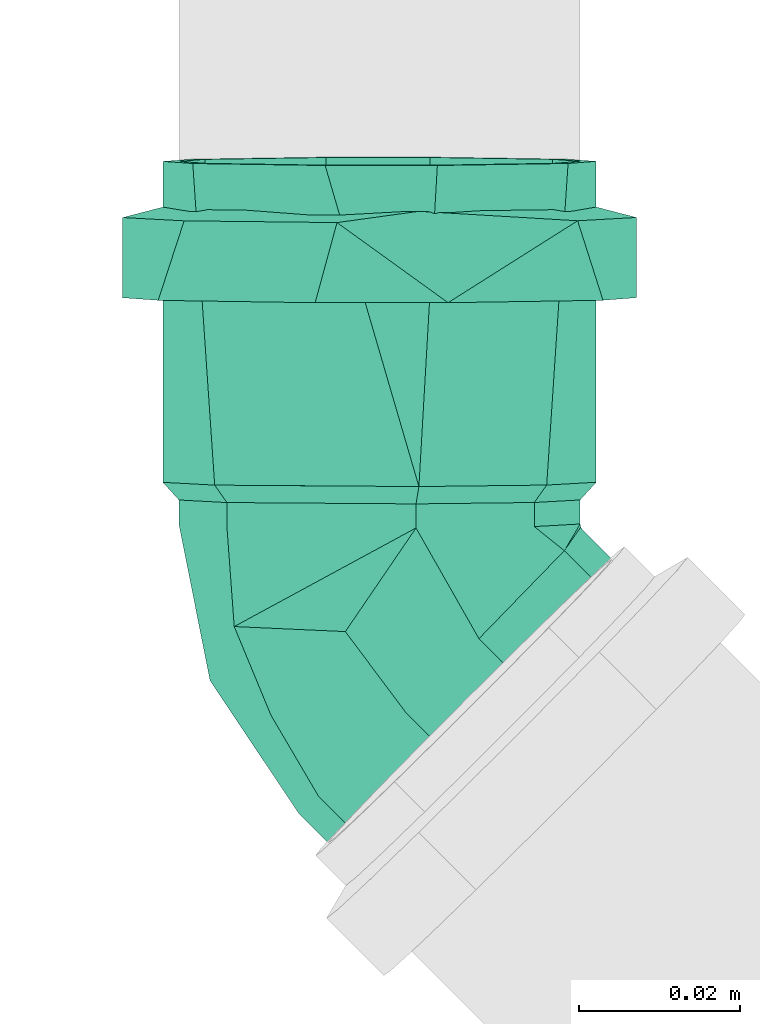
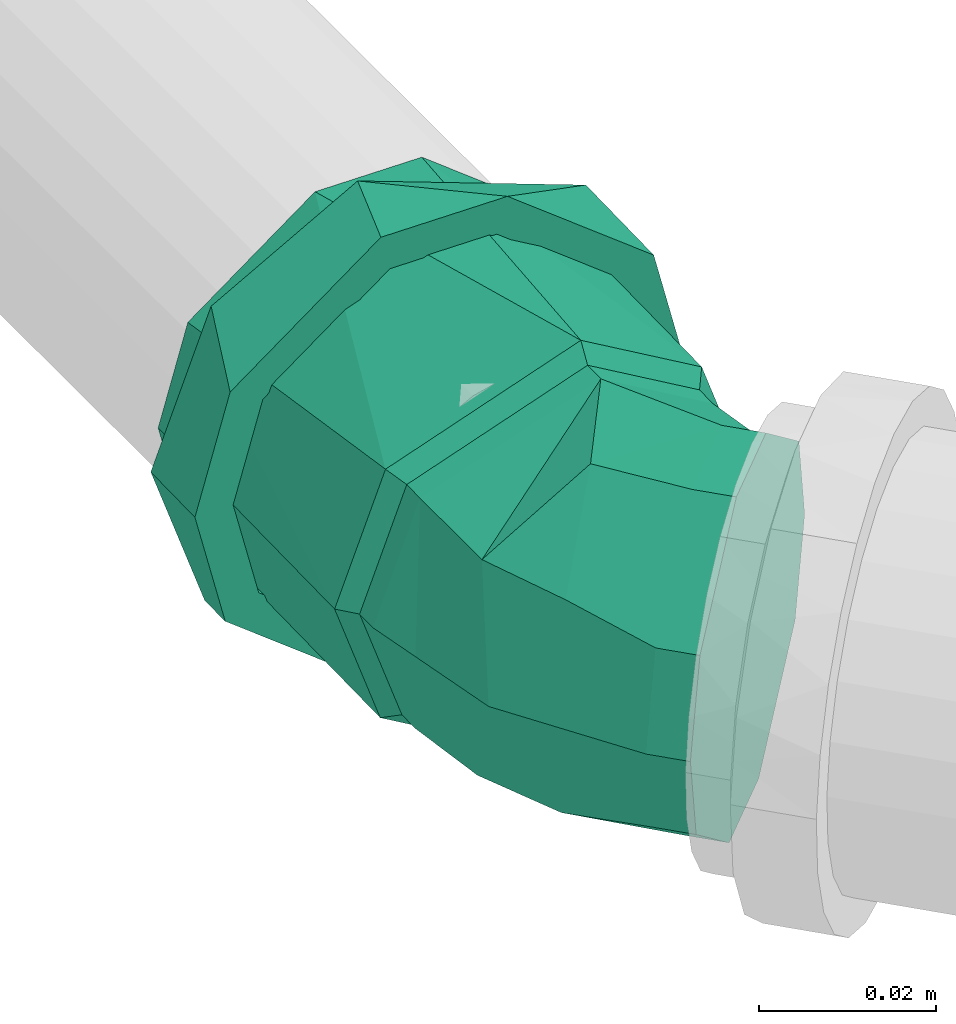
# One storey, part 131 of 589: 1 flow fitting.
"""IFC2X3 building model written with IfcOpenShell, lengths in millimetres."""

from ifc_helpers import new_model, entity, si_unit, converted_unit, derived_unit, direction, frame, origin, place, context, subcontext, project, spatial, faceted_brep, source, transform, mapped, material, type_object, type_shapes, element, save


model = new_model("IFC2X3")

# Units and contexts
model_context = context("Model", 3, precision=0.01, world=origin(), true_north=direction((6.123031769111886e-17, 1.0)))
body_context = subcontext(model_context, "Body", "Model", "MODEL_VIEW")
ifc_project = project(units=[si_unit("LENGTHUNIT", "METRE", prefix="MILLI"), si_unit("AREAUNIT", "SQUARE_METRE"), si_unit("VOLUMEUNIT", "CUBIC_METRE"), converted_unit("PLANEANGLEUNIT", "DEGREE", entity("IfcRatioMeasure", 0.017453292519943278), si_unit("PLANEANGLEUNIT", "RADIAN"), dimensions=[0, 0, 0, 0, 0, 0, 0]), si_unit("MASSUNIT", "GRAM", prefix="KILO"), derived_unit("MASSDENSITYUNIT", [(si_unit("MASSUNIT", "GRAM", prefix="KILO"), 1), (si_unit("LENGTHUNIT", "METRE"), -3)]), derived_unit("IONCONCENTRATIONUNIT", [(si_unit("MASSUNIT", "GRAM", prefix="KILO"), 1), (si_unit("LENGTHUNIT", "METRE"), -3)]), derived_unit("MOMENTOFINERTIAUNIT", [(si_unit("LENGTHUNIT", "METRE"), 4)]), si_unit("TIMEUNIT", "SECOND"), si_unit("FREQUENCYUNIT", "HERTZ"), si_unit("THERMODYNAMICTEMPERATUREUNIT", "DEGREE_CELSIUS"), derived_unit("THERMALTRANSMITTANCEUNIT", [(si_unit("MASSUNIT", "GRAM", prefix="KILO"), 1), (si_unit("THERMODYNAMICTEMPERATUREUNIT", "KELVIN"), -1), (si_unit("TIMEUNIT", "SECOND"), -3)]), derived_unit("THERMALCONDUCTANCEUNIT", [(si_unit("MASSUNIT", "GRAM", prefix="KILO"), 1), (si_unit("THERMODYNAMICTEMPERATUREUNIT", "KELVIN"), -1), (si_unit("TIMEUNIT", "SECOND"), -3), (si_unit("LENGTHUNIT", "METRE"), 1)]), derived_unit("VOLUMETRICFLOWRATEUNIT", [(si_unit("LENGTHUNIT", "METRE"), 3), (si_unit("TIMEUNIT", "SECOND"), -1)]), derived_unit("MASSFLOWRATEUNIT", [(si_unit("MASSUNIT", "GRAM", prefix="KILO"), 1), (si_unit("TIMEUNIT", "SECOND"), -1)]), derived_unit("ROTATIONALFREQUENCYUNIT", [(si_unit("TIMEUNIT", "SECOND"), -1)]), si_unit("ELECTRICCURRENTUNIT", "AMPERE"), si_unit("ELECTRICVOLTAGEUNIT", "VOLT"), si_unit("POWERUNIT", "WATT"), si_unit("FORCEUNIT", "NEWTON", prefix="KILO"), si_unit("ILLUMINANCEUNIT", "LUX"), si_unit("LUMINOUSFLUXUNIT", "LUMEN"), si_unit("LUMINOUSINTENSITYUNIT", "CANDELA"), derived_unit("USERDEFINED", [(si_unit("MASSUNIT", "GRAM", prefix="KILO"), -1), (si_unit("LENGTHUNIT", "METRE"), -2), (si_unit("TIMEUNIT", "SECOND"), 3), (si_unit("LUMINOUSFLUXUNIT", "LUMEN"), 1)]), derived_unit("USERDEFINED", [(si_unit("MASSUNIT", "GRAM", prefix="KILO"), 1), (si_unit("TIMEUNIT", "SECOND"), -3), (si_unit("LENGTHUNIT", "METRE"), 3), (si_unit("ELECTRICCURRENTUNIT", "AMPERE"), -2)]), derived_unit("SOUNDPOWERUNIT", [(si_unit("MASSUNIT", "GRAM", prefix="KILO"), 1), (si_unit("TIMEUNIT", "SECOND"), -3), (si_unit("LENGTHUNIT", "METRE"), 2)]), derived_unit("SOUNDPRESSUREUNIT", [(si_unit("MASSUNIT", "GRAM", prefix="KILO"), 1), (si_unit("LENGTHUNIT", "METRE"), -1), (si_unit("TIMEUNIT", "SECOND"), -2)]), derived_unit("LINEARVELOCITYUNIT", [(si_unit("LENGTHUNIT", "METRE"), 1), (si_unit("TIMEUNIT", "SECOND"), -1)]), si_unit("PRESSUREUNIT", "PASCAL"), derived_unit("USERDEFINED", [(si_unit("MASSUNIT", "GRAM", prefix="KILO"), 1), (si_unit("LENGTHUNIT", "METRE"), -2), (si_unit("TIMEUNIT", "SECOND"), -2)]), derived_unit("LINEARFORCEUNIT", [(si_unit("MASSUNIT", "GRAM", prefix="KILO"), 1), (si_unit("TIMEUNIT", "SECOND"), -2)]), derived_unit("PLANARFORCEUNIT", [(si_unit("MASSUNIT", "GRAM", prefix="KILO"), 1), (si_unit("LENGTHUNIT", "METRE"), -1), (si_unit("TIMEUNIT", "SECOND"), -2)]), derived_unit("SPECIFICHEATCAPACITYUNIT", [(si_unit("THERMODYNAMICTEMPERATUREUNIT", "KELVIN"), -1), (si_unit("LENGTHUNIT", "METRE"), 2), (si_unit("TIMEUNIT", "SECOND"), -2)]), derived_unit("HEATINGVALUEUNIT", [(si_unit("LENGTHUNIT", "METRE"), 2), (si_unit("TIMEUNIT", "SECOND"), -2)]), derived_unit("VAPORPERMEABILITYUNIT", [(si_unit("LENGTHUNIT", "METRE"), -1), (si_unit("TIMEUNIT", "SECOND"), 1)]), derived_unit("DYNAMICVISCOSITYUNIT", [(si_unit("MASSUNIT", "GRAM", prefix="KILO"), 1), (si_unit("TIMEUNIT", "SECOND"), -1), (si_unit("LENGTHUNIT", "METRE"), -1)]), derived_unit("THERMALEXPANSIONCOEFFICIENTUNIT", [(si_unit("THERMODYNAMICTEMPERATUREUNIT", "KELVIN"), -1)]), derived_unit("MODULUSOFELASTICITYUNIT", [(si_unit("MASSUNIT", "GRAM", prefix="KILO"), 1), (si_unit("LENGTHUNIT", "METRE"), -1), (si_unit("TIMEUNIT", "SECOND"), -2)]), derived_unit("ISOTHERMALMOISTURECAPACITYUNIT", [(si_unit("LENGTHUNIT", "METRE"), 3), (si_unit("MASSUNIT", "GRAM", prefix="KILO"), -1)]), derived_unit("MOISTUREDIFFUSIVITYUNIT", [(si_unit("TIMEUNIT", "SECOND"), -1), (si_unit("LENGTHUNIT", "METRE"), 2)])], contexts=[model_context])

# Site, building, storey
site_placement = place(None, origin())
site = spatial("IfcSite", under=ifc_project, at=site_placement, Name="Default", CompositionType="ELEMENT")
building_placement = place(site_placement, origin())
building = spatial("IfcBuilding", under=site, at=building_placement, CompositionType="ELEMENT")
storey_placement = place(building_placement, frame((0.0, 0.0, 100.0)))
storey = spatial("IfcBuildingStorey", under=building, at=storey_placement, Name="TÉRREO", CompositionType="ELEMENT", Elevation=100.0)

# Flow fitting
ifc_material = material(Name="PVC Série Normal")
pipe_fitting_type = type_object("IfcPipeFittingType", Name="PVC Esgoto_Joelho 45_90_Rodrigo MEP:a. Série Normal", PredefinedType="NOTDEFINED", material=ifc_material)
shared_shape = source(origin(), body_context, "Body", "Brep", [
    faceted_brep([(-7.692074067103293, 22.924025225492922, 12.500000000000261), (-10.060040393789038, 25.29277610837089, 0.0), (-7.692074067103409, 22.92402522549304, -12.499999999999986), (3.0401412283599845, 12.188254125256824, -24.1481456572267), (12.189260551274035, 3.0361035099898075, -24.148145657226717), (22.92147584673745, -7.699667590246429, -12.500000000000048), (25.289442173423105, -10.068418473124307, 0.0), (22.921475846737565, -7.699667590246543, 12.499999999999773), (12.18926055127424, 3.0361035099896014, 24.148145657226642), (3.0401412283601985, 12.188254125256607, 24.14814565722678), (28.967006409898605, -6.3920722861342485, 0.0), (26.599040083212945, -4.023321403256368, -12.500000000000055), (15.86682478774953, 6.712449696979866, -24.148145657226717), (6.717705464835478, 15.864600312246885, -24.148145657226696), (-4.014509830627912, 26.600371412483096, -12.499999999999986), (-6.382476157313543, 28.969122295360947, 0.0), (-4.0145098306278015, 26.600371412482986, 12.500000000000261), (6.717705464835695, 15.86460031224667, 24.14814565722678), (15.866824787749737, 6.712449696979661, 24.148145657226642), (26.599040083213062, -4.023321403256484, 12.499999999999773)], [[[0, 1, 2, 3, 4, 5, 6, 7, 8, 9]], [[10, 11, 12, 13, 14, 15, 16, 17, 18, 19]], [[6, 10, 19, 7]], [[7, 19, 18, 8]], [[18, 17, 9, 8]], [[9, 17, 16, 0]], [[0, 16, 15, 1]], [[1, 15, 14, 2]], [[2, 14, 13, 3]], [[13, 12, 4, 3]], [[4, 12, 11, 5]], [[5, 11, 10, 6]]]),
    faceted_brep([(-55.967030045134, -6.988114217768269, -26.07999730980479), (-55.967030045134, -6.47047612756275, -24.14814565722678), (-55.967030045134, 6.4704761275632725, -24.148145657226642), (-55.967030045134, -23.382685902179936, -13.499999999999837), (-55.967030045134, 6.988114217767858, -26.0799973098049), (-55.967030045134, -21.650635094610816, -12.500000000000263), (-55.967030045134, -25.0, 0.0), (-55.967030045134, -27.0, 0.0), (-55.967030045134, -21.650635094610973, 12.499999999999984), (-55.967030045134, -23.382685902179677, 13.500000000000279), (-55.967030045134, -6.470476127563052, 24.1481456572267), (-55.967030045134, -6.98811421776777, 26.079997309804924), (-55.967030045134, 6.470476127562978, 24.14814565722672), (-55.967030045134, 6.988114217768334, 26.07999730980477), (-55.967030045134, 21.650635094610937, 12.500000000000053), (-55.967030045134, 23.38268590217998, 13.499999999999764), (-55.967030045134, 27.0, 0.0), (-55.967030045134, 25.0, 0.0), (-55.967030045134, 23.382685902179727, -13.500000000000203), (-55.967030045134, 21.6506350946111, -12.499999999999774), (-15.967030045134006, 21.650635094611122, -12.499999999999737), (-15.967030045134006, 25.0, 0.0), (-15.967030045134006, 6.4704761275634, -24.148145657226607), (-15.967030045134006, -6.470476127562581, -24.148145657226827), (-15.967030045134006, -21.650635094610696, -12.500000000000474), (-15.967030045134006, -25.0, 0.0), (-15.967030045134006, -21.65063509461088, 12.500000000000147), (-15.967030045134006, -6.470476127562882, 24.14814565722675), (-15.967030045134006, 6.470476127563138, 24.148145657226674), (-15.967030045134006, 21.650635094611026, 12.499999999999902), (-15.967030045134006, 27.0, 0.0), (-15.967030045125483, 20.682232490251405, 17.356418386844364), (-15.967030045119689, 4.685536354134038, 26.59033187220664), (-15.967030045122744, -20.686585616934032, 17.35122979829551), (-15.967030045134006, -27.0, 0.0), (-15.96703004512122, -8.000524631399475, 21.970780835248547), (-15.96703004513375, -20.686585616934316, -17.35122979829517), (-15.967030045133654, -4.6922062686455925, -26.589155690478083), (-15.967030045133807, 20.682232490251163, -17.356418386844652), (-15.967030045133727, 7.995013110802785, -21.972787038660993), (-13.76703004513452, -4.338459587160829, -24.620677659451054), (-13.767030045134, 25.0, 0.0), (-13.76703004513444, 19.154245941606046, -16.065953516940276), (-13.767030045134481, 7.40789317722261, -20.34331558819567), (-13.7670300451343, -19.15021526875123, -16.07075776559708), (-13.767030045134, -25.0, 0.0), (-13.767030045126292, -19.150215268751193, 16.070757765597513), (-13.767030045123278, -7.402789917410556, 20.34517318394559), (-13.767030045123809, 19.154245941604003, 16.065953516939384), (-13.767030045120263, 4.344635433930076, 24.619588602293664), (-10.767030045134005, 25.0, 0.0), (-10.767030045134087, 19.151286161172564, 16.069481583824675), (-10.767030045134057, 4.341396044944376, 24.62016003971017), (-10.767030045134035, -7.404832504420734, 20.344954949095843), (-10.767030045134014, -19.15106105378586, 16.069749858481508), (-10.767030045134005, -25.0, 0.0), (-10.767030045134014, -19.15106105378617, -16.069749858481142), (-10.767030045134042, -4.341051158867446, -24.62022085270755), (-10.767030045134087, 19.15128616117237, -16.069481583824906), (-10.767030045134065, 7.405117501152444, -20.344851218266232), (25.289442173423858, -10.068418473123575, 0.0), (22.9214758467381, -7.699667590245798, -12.500000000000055), (12.189260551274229, 3.0361035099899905, -24.14814565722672), (3.0401412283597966, 12.188254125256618, -24.1481456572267), (-7.692074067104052, 22.92402522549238, -12.499999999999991), (-10.060040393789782, 25.292776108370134, 0.0), (-7.692074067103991, 22.924025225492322, 12.500000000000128), (3.040141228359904, 12.188254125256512, 24.14814565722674), (12.189260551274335, 3.036103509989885, 24.148145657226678), (22.92147584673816, -7.699667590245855, 12.499999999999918), (1.7065644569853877, -18.23155710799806, 15.05751816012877), (8.745922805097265, -21.119472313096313, 0.0), (12.768205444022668, -13.650820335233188, 14.852748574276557), (-3.6046282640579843, -23.575618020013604, 0.0), (2.158847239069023, -4.459785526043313, 23.973885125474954), (-10.384423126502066, 25.076088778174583, 0.0), (19.21699707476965, -14.124805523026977, 0.0), (12.764718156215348, -13.647838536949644, -14.858628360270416), (2.1213265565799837, -4.514353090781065, -23.9633231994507), (1.756380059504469, -18.2440512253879, -15.023571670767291)], [[[0, 1, 2]], [[1, 0, 3]], [[2, 4, 0]], [[3, 5, 1]], [[3, 6, 5]], [[6, 3, 7]], [[8, 6, 7]], [[8, 7, 9]], [[9, 10, 8]], [[9, 11, 10]], [[10, 11, 12]], [[13, 12, 11]], [[13, 14, 12]], [[14, 13, 15]], [[16, 14, 15]], [[17, 14, 16]], [[18, 17, 16]], [[18, 19, 17]], [[19, 18, 4]], [[4, 2, 19]], [[20, 21, 17, 19]], [[22, 20, 19, 2]], [[2, 1, 23, 22]], [[24, 23, 1, 5]], [[25, 24, 5, 6]], [[26, 25, 6, 8]], [[27, 26, 8, 10]], [[10, 12, 28, 27]], [[29, 28, 12, 14]], [[21, 29, 14, 17]], [[16, 15, 30]], [[15, 31, 30]], [[31, 15, 13]], [[31, 13, 32]], [[33, 11, 9]], [[34, 9, 7]], [[11, 33, 35, 32]], [[33, 9, 34]], [[11, 32, 13]], [[7, 3, 34]], [[3, 36, 34]], [[36, 3, 0]], [[36, 0, 37]], [[38, 4, 18]], [[30, 18, 16]], [[4, 38, 39, 37]], [[38, 18, 30]], [[4, 37, 0]], [[28, 29, 21, 20, 22, 23, 24, 25, 26, 27]], [[39, 40, 37]], [[41, 42, 30]], [[30, 42, 38]], [[38, 43, 39]], [[44, 45, 36]], [[38, 42, 43]], [[36, 37, 44]], [[34, 36, 45]], [[40, 39, 43]], [[44, 37, 40]], [[45, 46, 33]], [[33, 34, 45]], [[46, 35, 33]], [[46, 47, 35]], [[47, 32, 35]], [[48, 41, 30]], [[48, 31, 49]], [[31, 48, 30]], [[32, 47, 49]], [[49, 31, 32]], [[41, 48, 50]], [[48, 51, 50]], [[51, 48, 49]], [[51, 49, 52]], [[52, 47, 53]], [[46, 54, 53]], [[46, 45, 54]], [[49, 47, 52]], [[54, 45, 55]], [[47, 46, 53]], [[45, 44, 56]], [[45, 56, 55]], [[56, 44, 57]], [[58, 59, 43]], [[44, 40, 57]], [[40, 59, 57]], [[58, 43, 42]], [[42, 50, 58]], [[50, 42, 41]], [[59, 40, 43]], [[60, 61, 62, 63, 64, 65, 66, 67, 68, 69]], [[51, 52, 67]], [[70, 71, 72]], [[54, 55, 73]], [[70, 72, 74]], [[50, 66, 75]], [[51, 66, 50]], [[52, 70, 74]], [[76, 60, 69]], [[71, 70, 73]], [[72, 76, 69]], [[73, 70, 54]], [[76, 72, 71]], [[68, 72, 69]], [[75, 66, 65]], [[70, 52, 53, 54]], [[52, 74, 67]], [[67, 66, 51]], [[68, 74, 72]], [[68, 67, 74]], [[61, 76, 77]], [[73, 55, 56]], [[78, 58, 63]], [[78, 57, 59, 58]], [[79, 73, 56]], [[57, 78, 79]], [[62, 77, 78]], [[58, 50, 64]], [[75, 65, 64]], [[57, 79, 56]], [[61, 60, 76]], [[64, 63, 58]], [[79, 78, 77]], [[62, 61, 77]], [[76, 71, 77]], [[73, 79, 71]], [[79, 77, 71]], [[63, 62, 78]], [[64, 50, 75]]]),
    faceted_brep([(-38.96703004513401, 6.9881142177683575, -26.07999730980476), (-38.96703004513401, -6.988114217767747, -26.079997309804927), (-38.96703004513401, -8.282209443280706, -30.909626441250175), (-38.96703004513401, 8.28220944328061, -30.9096264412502), (-38.96703004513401, 23.38268590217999, -13.499999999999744), (-38.96703004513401, -27.712812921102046, -16.0), (-38.96703004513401, -23.38268590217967, -13.500000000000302), (-38.96703004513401, -27.0, 0.0), (-38.96703004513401, -32.0, 0.0), (-38.96703004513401, -23.382685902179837, 13.500000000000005), (-38.96703004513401, -27.712812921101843, 16.0), (-38.96703004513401, -6.988114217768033, 26.07999730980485), (-38.96703004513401, -8.28220944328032, 30.909626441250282), (-38.96703004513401, 6.988114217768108, 26.07999730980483), (-38.96703004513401, 8.282209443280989, 30.909626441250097), (-38.96703004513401, 23.382685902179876, 13.499999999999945), (-38.96703004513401, 27.712812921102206, 16.0), (-38.96703004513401, 32.0, 0.0), (-38.96703004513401, 27.0, 0.0), (-38.96703004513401, 27.712812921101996, -16.0), (-48.967030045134, 27.0, 0.0), (-50.26703004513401, 27.0, 0.0), (-48.967030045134, 25.191342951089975, -6.750000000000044), (-48.967030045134, 23.38268590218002, -13.499999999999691), (-48.967030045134, 19.284042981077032, -16.644999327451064), (-48.967030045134, 15.185400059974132, -19.789998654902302), (-48.967030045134, 11.086757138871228, -22.934997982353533), (-48.967030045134, 6.988114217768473, -26.07999730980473), (-48.967030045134, 0.0, -26.079997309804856), (-48.967030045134, -6.988114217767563, -26.079997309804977), (-48.967030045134, -11.086757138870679, -22.934997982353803), (-48.967030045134, -15.185400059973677, -19.789998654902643), (-48.967030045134, -19.284042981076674, -16.644999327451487), (-48.967030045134, -23.382685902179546, -13.50000000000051), (-48.967030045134, -25.191342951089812, -6.750000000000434), (-50.26703004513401, -27.0, 0.0), (-48.967030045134, -27.0, 0.0), (-48.967030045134, -25.19134295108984, 6.750000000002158), (-48.967030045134, -23.382685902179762, 13.500000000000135), (-48.967030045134, -19.284042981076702, 16.64499932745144), (-48.967030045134, -15.185400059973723, 19.7899986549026), (-48.967030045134, -11.086757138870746, 22.934997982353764), (-48.967030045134, -6.988114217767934, 26.079997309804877), (-48.967030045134, 0.0, 26.079997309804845), (-48.967030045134, 6.988114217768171, 26.079997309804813), (-48.967030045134, 11.086757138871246, 22.93499798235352), (-48.967030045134, 15.185400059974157, 19.789998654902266), (-48.967030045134, 19.284042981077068, 16.644999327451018), (-48.967030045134, 23.382685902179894, 13.499999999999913), (-48.967030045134, 25.19134295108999, 6.74999999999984), (-48.967030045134, 32.0, 0.0), (-48.9670300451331, 24.512275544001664, 20.570569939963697), (-48.96703004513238, -5.561133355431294, 31.51307341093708), (-48.9670300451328, -24.51743480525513, 20.56442050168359), (-48.967030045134, -32.0, 0.0), (-48.96703004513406, -24.51743480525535, -20.564420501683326), (-48.96703004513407, 5.553228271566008, -31.514467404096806), (-48.96703004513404, 24.512275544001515, -20.570569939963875), (-50.267030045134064, -23.84329280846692, -8.675614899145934), (-50.267030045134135, -20.686585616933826, -17.351229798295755), (-50.26703004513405, 23.841116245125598, -8.678209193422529), (-50.2670300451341, 20.6822324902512, -17.356418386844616), (-50.26703004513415, -12.689395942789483, -21.970192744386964), (-50.26703004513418, -4.692206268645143, -26.589155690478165), (-50.26703004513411, 14.338622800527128, -19.664602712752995), (-50.26703004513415, 1.6514034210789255, -24.280971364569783), (-50.267030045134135, 7.995013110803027, -21.97278703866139), (-50.26703004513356, 23.84111624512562, 8.678209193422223), (-50.26703004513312, 20.68223249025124, 17.35641838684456), (-50.267030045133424, -23.843292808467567, 8.675614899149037), (-50.26703004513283, -20.68658561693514, 17.351229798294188), (-50.26703004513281, 12.683884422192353, 21.973375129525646), (-50.267030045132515, 4.685536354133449, 26.590331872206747), (-50.26703004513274, -14.343555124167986, 19.66100531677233), (-50.26703004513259, -1.6574941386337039, 24.280556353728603), (-50.26703004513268, -8.000524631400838, 21.97078083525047)], [[[0, 1, 2]], [[2, 3, 0]], [[4, 0, 3]], [[5, 2, 1]], [[1, 6, 5]], [[6, 7, 5]], [[8, 5, 7]], [[8, 7, 9]], [[10, 8, 9]], [[9, 11, 10]], [[11, 12, 10]], [[13, 12, 11]], [[12, 13, 14]], [[13, 15, 14]], [[16, 14, 15]], [[16, 15, 17]], [[17, 15, 18]], [[18, 4, 19]], [[17, 18, 19]], [[3, 19, 4]], [[4, 18, 20, 21, 22, 23]], [[0, 4, 23, 24, 25, 26, 27]], [[0, 27, 28, 29, 1]], [[6, 1, 29, 30, 31, 32, 33]], [[7, 6, 33, 34, 35, 36]], [[9, 7, 36, 35, 37, 38]], [[11, 9, 38, 39, 40, 41, 42]], [[11, 42, 43, 44, 13]], [[15, 13, 44, 45, 46, 47, 48]], [[18, 15, 48, 49, 21, 20]], [[50, 51, 16]], [[50, 16, 17]], [[16, 51, 14]], [[51, 52, 14]], [[12, 52, 53]], [[10, 53, 54]], [[53, 10, 12]], [[10, 54, 8]], [[52, 12, 14]], [[54, 55, 5]], [[54, 5, 8]], [[5, 55, 2]], [[55, 56, 2]], [[3, 56, 57]], [[19, 57, 50]], [[57, 19, 3]], [[19, 50, 17]], [[56, 3, 2]], [[58, 33, 59]], [[23, 60, 61]], [[32, 31, 59, 33]], [[30, 29, 62, 31]], [[24, 23, 61, 25]], [[29, 28, 63]], [[26, 25, 64]], [[65, 63, 28]], [[31, 62, 59]], [[63, 62, 29]], [[60, 22, 21]], [[34, 58, 35]], [[66, 26, 64]], [[28, 27, 65]], [[27, 66, 65]], [[27, 26, 66]], [[64, 25, 61]], [[34, 33, 58]], [[60, 23, 22]], [[67, 48, 68]], [[38, 69, 70]], [[47, 46, 68, 48]], [[45, 44, 71, 46]], [[39, 38, 70, 40]], [[44, 43, 72]], [[41, 40, 73]], [[74, 72, 43]], [[46, 71, 68]], [[72, 71, 44]], [[69, 37, 35]], [[49, 67, 21]], [[75, 41, 73]], [[43, 42, 74]], [[42, 75, 74]], [[42, 41, 75]], [[73, 40, 70]], [[49, 48, 67]], [[69, 38, 37]], [[54, 35, 58, 59, 55]], [[55, 59, 62, 63]], [[55, 63, 56]], [[57, 61, 60, 21, 50]], [[57, 56, 61]], [[56, 63, 65, 66, 64, 61]], [[50, 21, 67, 68, 51]], [[51, 68, 71, 72]], [[51, 72, 52]], [[53, 70, 69, 35, 54]], [[53, 52, 70]], [[52, 72, 74, 75, 73, 70]]]),
])
type_shapes(pipe_fitting_type, [shared_shape])
flow_fitting_placement = place(storey_placement, frame((7449.442851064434, -9714.398476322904, -246.51310058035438), z_axis=(0.008282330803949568, -0.019995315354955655, 0.999765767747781), x_axis=(0.0, -0.9998000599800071, -0.019996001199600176)))
element("IfcFlowFitting", 1, at=flow_fitting_placement, inside=storey, type_object=pipe_fitting_type, material=ifc_material, Name="PVC Esgoto_Joelho 45_90_Rodrigo MEP:a. Série Normal", ObjectType="PVC Esgoto_Joelho 45_90_Rodrigo MEP:a. Série Normal", context=body_context, shape_type="MappedRepresentation", body=[
    mapped(shared_shape, transform((0.0, 0.0, 0.0), scale=1.0)),
])

save(model, "model.ifc")
